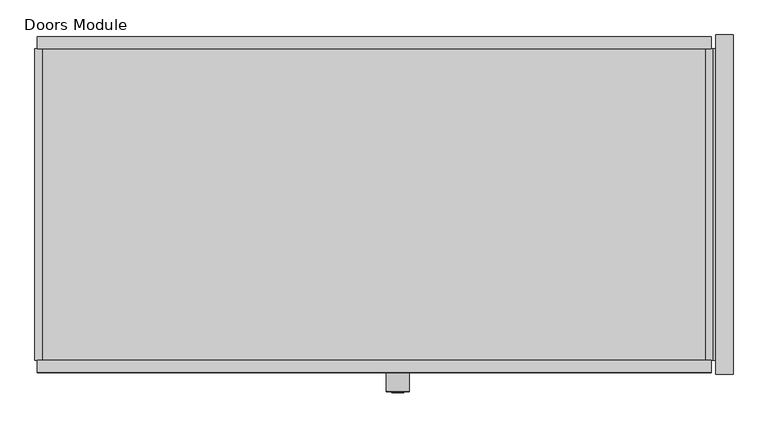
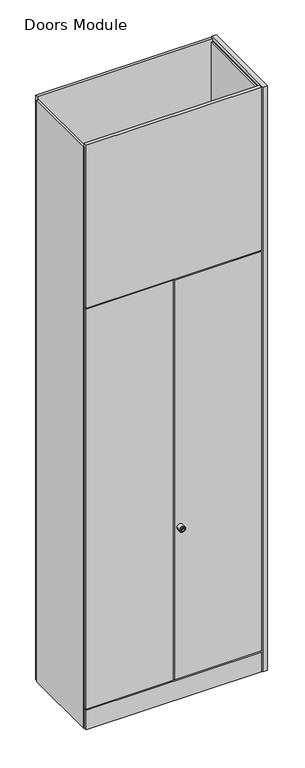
"""IFC4 building model written with IfcOpenShell, lengths in millimetres: furniture geometry, Furniture_Storage_Spacestor_SignatureStoragewall : Doors Module."""

import ifcopenshell
import ifcopenshell.guid

model = None  # the IFC model being written
_history = None  # IfcOwnerHistory: only IFC2X3 demands one
_inside = {}  # id of a spatial element -> (the spatial element, [elements in it])
_under = {}  # id of a project, library or spatial element -> (it, [spatial elements below it])
_declared = {}  # id of a project -> (the project, [libraries it declares])
_typed = {}  # id of a type object -> (the type object, [elements of that type])
_made_of = {}  # id of a material, layer set ... -> (it, [elements and type objects made of it])


def new_model(schema):
    """Start an empty IFC model of exactly this schema.

    Asked for "IFC4X3", IfcOpenShell would pick the latest addendum, in which some entities
    have other attributes; the version numbers below select the first issue.
    IFC2X3 requires an IfcOwnerHistory on every rooted entity: one is made here for all.
    """
    global model, _history
    if schema == "IFC4X3":
        model = ifcopenshell.file(schema_version=(4, 3, 0, 0))
    else:
        model = ifcopenshell.file(schema=schema)
    _inside.clear()
    _under.clear()
    _declared.clear()
    _typed.clear()
    _made_of.clear()
    _history = None
    if model.schema == "IFC2X3":
        org = make("IfcOrganization", Name="unknown")
        user = make(
            "IfcPersonAndOrganization",
            ThePerson=make("IfcPerson", FamilyName="unknown"),
            TheOrganization=org,
        )
        app = make(
            "IfcApplication",
            ApplicationDeveloper=org,
            Version="unknown",
            ApplicationFullName="unknown",
            ApplicationIdentifier="unknown",
        )
        _history = make(
            "IfcOwnerHistory",
            OwningUser=user,
            OwningApplication=app,
            ChangeAction="ADDED",
            CreationDate=0,
        )
    return model


def make(cls, **values):
    """One entity of the class cls with the attributes given. An attribute that is None is left unset."""
    return model.create_entity(
        cls, **{name: value for name, value in values.items() if value is not None}
    )


def rooted(cls, **values):
    """An entity with a GlobalId (a new one), such as an element, a storey or a relation."""
    return make(cls, GlobalId=ifcopenshell.guid.new(), OwnerHistory=_history, **values)


def si_unit(unit_type, name, prefix=None):
    """IfcSIUnit, for example si_unit("LENGTHUNIT", "METRE", prefix="MILLI")."""
    return make("IfcSIUnit", UnitType=unit_type, Prefix=prefix, Name=name)


def assignment(units):
    """IfcUnitAssignment: the units of a project."""
    return None if units is None else make("IfcUnitAssignment", Units=units)


def point(xyz):
    """IfcCartesianPoint."""
    return None if xyz is None else make("IfcCartesianPoint", Coordinates=xyz)


def direction(xyz):
    """IfcDirection."""
    return None if xyz is None else make("IfcDirection", DirectionRatios=xyz)


def frame(location, z_axis=None, x_axis=None):
    """IfcAxis2Placement3D, a coordinate frame: its origin and axes. An axis left out is left unset."""
    return make(
        "IfcAxis2Placement3D",
        Location=point(location),
        Axis=direction(z_axis),
        RefDirection=direction(x_axis),
    )


def origin():
    """The frame at (0, 0, 0) with its axes left unset."""
    return frame((0.0, 0.0, 0.0))


def origin_with_axes():
    """The frame at (0, 0, 0) with the z axis (0, 0, 1) and the x axis (1, 0, 0) written out."""
    return frame((0.0, 0.0, 0.0), z_axis=(0.0, 0.0, 1.0), x_axis=(1.0, 0.0, 0.0))


def place(relative_to, where):
    """IfcLocalPlacement: puts the frame where relative to a parent placement (None: the world)."""
    return make(
        "IfcLocalPlacement", PlacementRelTo=relative_to, RelativePlacement=where
    )


def context(
    kind, dimensions, precision=None, world=None, true_north=None, identifier=None
):
    """IfcGeometricRepresentationContext, for example the 3D "Model" context."""
    return make(
        "IfcGeometricRepresentationContext",
        ContextIdentifier=identifier,
        ContextType=kind,
        CoordinateSpaceDimension=dimensions,
        Precision=precision,
        WorldCoordinateSystem=world,
        TrueNorth=true_north,
    )


def project(units=None, contexts=None):
    """IfcProject with its units and contexts."""
    return rooted(
        "IfcProject",
        Name="project",
        RepresentationContexts=contexts,
        UnitsInContext=assignment(units),
    )


def spatial(cls, under=None, at=None, **own):
    """A site, building, storey or space (cls), placed at a placement, below another one or the project."""
    s = rooted(cls, ObjectPlacement=at, **own)
    if under is not None:
        _under.setdefault(under.id(), (under, []))[1].append(s)
    return s


def polyline(points):
    """IfcPolyline through the points."""
    return make("IfcPolyline", Points=[point(p) for p in points])


def circle_curve(where, radius):
    """IfcCircle in the frame where."""
    return make("IfcCircle", Position=where, Radius=radius)


def ellipse_curve(where, semi_axis1, semi_axis2):
    """IfcEllipse in the frame where."""
    return make(
        "IfcEllipse", Position=where, SemiAxis1=semi_axis1, SemiAxis2=semi_axis2
    )


def trimmed(basis, trim1, trim2, sense, master):
    """IfcTrimmedCurve: the piece of a basis curve between two trims."""
    return make(
        "IfcTrimmedCurve",
        BasisCurve=basis,
        Trim1=trim1,
        Trim2=trim2,
        SenseAgreement=sense,
        MasterRepresentation=master,
    )


def outline(outer, holes=None, kind="AREA"):
    """IfcArbitraryClosedProfileDef: a profile drawn as a closed curve; with holes, ...WithVoids."""
    if holes is None:
        return make("IfcArbitraryClosedProfileDef", ProfileType=kind, OuterCurve=outer)
    return make(
        "IfcArbitraryProfileDefWithVoids",
        ProfileType=kind,
        OuterCurve=outer,
        InnerCurves=holes,
    )


def extrude(swept, where, along, depth):
    """IfcExtrudedAreaSolid: the profile swept, set in the frame where, extruded along a direction by depth."""
    return make(
        "IfcExtrudedAreaSolid",
        SweptArea=swept,
        Position=where,
        ExtrudedDirection=direction(along),
        Depth=depth,
    )


def shape(context_of_items, identifier, shape_type, items):
    """IfcShapeRepresentation: the items that make up one representation, for example the "Body"."""
    return make(
        "IfcShapeRepresentation",
        ContextOfItems=context_of_items,
        RepresentationIdentifier=identifier,
        RepresentationType=shape_type,
        Items=items,
    )


def source(mapping_origin, context_of_items, identifier, shape_type, items):
    """IfcRepresentationMap: a shape defined once, which mapped items show again and again."""
    return make(
        "IfcRepresentationMap",
        MappingOrigin=mapping_origin,
        MappedRepresentation=shape(context_of_items, identifier, shape_type, items),
    )


def transform(
    local_origin,
    x_axis=None,
    y_axis=None,
    z_axis=None,
    scale=None,
    scale2=None,
    scale3=None,
    uniform=True,
):
    """IfcCartesianTransformationOperator3D, or its non-uniform kind. x_axis, y_axis, z_axis: its Axis1, 2, 3."""
    if uniform:
        return make(
            "IfcCartesianTransformationOperator3D",
            Axis1=direction(x_axis),
            Axis2=direction(y_axis),
            LocalOrigin=point(local_origin),
            Scale=scale,
            Axis3=direction(z_axis),
        )
    return make(
        "IfcCartesianTransformationOperator3DnonUniform",
        Axis1=direction(x_axis),
        Axis2=direction(y_axis),
        LocalOrigin=point(local_origin),
        Scale=scale,
        Axis3=direction(z_axis),
        Scale2=scale2,
        Scale3=scale3,
    )


def mapped(mapping_source, mapping_target):
    """IfcMappedItem: shows the shape of a source again, moved by a transform."""
    return make(
        "IfcMappedItem", MappingSource=mapping_source, MappingTarget=mapping_target
    )


def made_of(thing, what):
    """Note that an element or type object is made of a material, layer set ...; save() writes the relation."""
    if what is not None:
        _made_of.setdefault(what.id(), (what, []))[1].append(thing)
    return thing


def element(
    cls,
    number,
    at=None,
    inside=None,
    cuts=None,
    type_object=None,
    material=None,
    context=None,
    identifier="Body",
    shape_type=None,
    held_by="IfcProductDefinitionShape",
    body=None,
    shapes=None,
    **own,
):
    """One element of the class cls, such as IfcWall. Its Tag is "e" and its number.

    at: its placement. inside: the storey or other place that contains it. cuts: it is an
    opening in that element (IfcRelVoidsElement). A single representation is given by context,
    identifier, shape_type and body (its items); several are given by shapes. held_by: the class
    of the entity that holds the representations. save() writes the other relations.
    """
    e = rooted(cls, Tag="e%d" % number, ObjectPlacement=at, **own)
    if body is not None:
        shapes = [shape(context, identifier, shape_type, body)]
    if shapes is not None:
        e.Representation = make(held_by, Representations=shapes)
    if inside is not None:
        _inside.setdefault(inside.id(), (inside, []))[1].append(e)
    if cuts is not None:
        rooted(
            "IfcRelVoidsElement", RelatingBuildingElement=cuts, RelatedOpeningElement=e
        )
    if type_object is not None:
        _typed.setdefault(type_object.id(), (type_object, []))[1].append(e)
    return made_of(e, material)


def aggregate(whole, parts):
    """IfcRelAggregates: a whole, such as a stair, and the parts it consists of."""
    return rooted("IfcRelAggregates", RelatingObject=whole, RelatedObjects=parts)


def save(model, path):
    """Write the relations noted so far, then the file.

    IfcRelAggregates (storeys below a building ...), IfcRelContainedInSpatialStructure (elements
    in a storey), IfcRelDefinesByType, IfcRelAssociatesMaterial and IfcRelDeclares: one each for
    every whole, place, type object, material and project.
    """
    for whole, parts in _under.values():
        aggregate(whole, parts)
    for where, things in _inside.values():
        rooted(
            "IfcRelContainedInSpatialStructure",
            RelatedElements=things,
            RelatingStructure=where,
        )
    for kind, things in _typed.values():
        rooted("IfcRelDefinesByType", RelatedObjects=things, RelatingType=kind)
    for what, things in _made_of.values():
        rooted("IfcRelAssociatesMaterial", RelatedObjects=things, RelatingMaterial=what)
    for by, libraries in _declared.values():
        rooted("IfcRelDeclares", RelatingContext=by, RelatedDefinitions=libraries)
    model.write(path)


def plane_surface(at):
    """IfcPlane: the flat surface through the origin of the frame at, square to its z axis."""
    return make("IfcPlane", Position=at)


def cylinder_surface(at, radius):
    """IfcCylindricalSurface: all points at the distance radius from the z axis of the frame at."""
    return make("IfcCylindricalSurface", Position=at, Radius=radius)


def revolved_surface(curve, axis_point, axis_direction):
    """IfcSurfaceOfRevolution: the curve turned about the line through axis_point along axis_direction."""
    return make(
        "IfcSurfaceOfRevolution",
        SweptCurve=make("IfcArbitraryOpenProfileDef", ProfileType="CURVE", Curve=curve),
        AxisPosition=make("IfcAxis1Placement", Location=point(axis_point), Axis=direction(axis_direction)),
    )


def advanced_brep(points, edges, surfaces, faces):
    """IfcAdvancedBrep: a solid bounded by faces that lie on surfaces and meet in shared edges.

    An edge is (start, end): straight between two places in points (the first is 0);
    or (start, end, curve); or (start, end, curve, False) where it runs against its curve.
    A face is (place in surfaces, loops), or (place, loops, False) where it looks against
    its surface's normal. A loop lists edges by number (the first is 1), with a minus sign
    where the edge is run from its end to its start. The first loop is the outer one.
    """
    corners = [point(p) for p in points]
    vertices = [make("IfcVertexPoint", VertexGeometry=c) for c in corners]
    made = []
    for start, end, *more in edges:
        made.append(
            make(
                "IfcEdgeCurve",
                EdgeStart=vertices[start],
                EdgeEnd=vertices[end],
                EdgeGeometry=more[0] if more else make("IfcPolyline", Points=[corners[start], corners[end]]),
                SameSense=more[1] if len(more) > 1 else True,
            )
        )
    hull = []
    for where, loops, *sense in faces:
        bounds = []
        for j, loop in enumerate(loops):
            ring = [make("IfcOrientedEdge", EdgeElement=made[abs(k) - 1], Orientation=k > 0) for k in loop]
            bounds.append(
                make(
                    "IfcFaceOuterBound" if j == 0 else "IfcFaceBound",
                    Bound=make("IfcEdgeLoop", EdgeList=ring),
                    Orientation=True,
                )
            )
        hull.append(make("IfcAdvancedFace", Bounds=bounds, FaceSurface=surfaces[where], SameSense=sense[0] if sense else True))
    return make("IfcAdvancedBrep", Outer=make("IfcClosedShell", CfsFaces=hull))


def doors_module_09854d80(model_context):
    return source(origin(), model_context, "Body", "SolidModel", [
        extrude(outline(polyline([(996.5, 459.0), (3.5, 459.0), (3.5, 477.0), (996.5, 477.0), (996.5, 459.0)])), origin_with_axes(), (0.0, 0.0, 1.0), 3500.0),
        extrude(outline(polyline([(996.5, -18.0), (3.5, -18.0), (3.5, 0.0), (996.5, 0.0), (996.5, -18.0)])), origin_with_axes(), (0.0, 0.0, 1.0), 118.0),
        extrude(outline(polyline([(996.5, -18.0), (3.5, -18.0), (3.5, 0.0), (996.5, 0.0), (996.5, -18.0)])), frame((0.0, 0.0, 2525.0), z_axis=(0.0, 0.0, 1.0), x_axis=(1.0, 0.0, 0.0)), (0.0, 0.0, 1.0), 975.0),
        extrude(outline(polyline([(1003.5, 479.5), (1029.0, 479.5), (1029.0, -20.5), (1003.5, -20.5), (1003.5, 479.5)])), origin_with_axes(), (0.0, 0.0, 1.0), 3500.0),
        extrude(outline(polyline([(1011.0, 0.0), (1000.0, 0.0), (1000.0, 459.0), (1011.0, 459.0), (1011.0, 0.0)])), origin_with_axes(), (0.0, 0.0, 1.0), 3482.0),
        extrude(outline(polyline([(1000.0, 0.0), (989.0, 0.0), (989.0, 459.0), (1000.0, 459.0), (1000.0, 0.0)])), origin_with_axes(), (0.0, 0.0, 1.0), 3482.0),
        extrude(outline(polyline([(11.0, 0.0), (0.0, 0.0), (0.0, 459.0), (11.0, 459.0), (11.0, 0.0)])), origin_with_axes(), (0.0, 0.0, 1.0), 3482.0),
        extrude(outline(polyline([(989.0, 0.0), (11.0, 0.0), (11.0, 459.0), (989.0, 459.0), (989.0, 0.0)])), frame((0.0, 0.0, 2023.0), z_axis=(0.0, 0.0, 1.0), x_axis=(1.0, 0.0, 0.0)), (0.0, 0.0, 1.0), 22.0),
        extrude(outline(polyline([(989.0, 0.0), (11.0, 0.0), (11.0, 459.0), (989.0, 459.0), (989.0, 0.0)])), frame((0.0, 0.0, 1639.0), z_axis=(0.0, 0.0, 1.0), x_axis=(1.0, 0.0, 0.0)), (0.0, 0.0, 1.0), 22.0),
        extrude(outline(polyline([(989.0, 0.0), (11.0, 0.0), (11.0, 459.0), (989.0, 459.0), (989.0, 0.0)])), frame((0.0, 0.0, 1255.0), z_axis=(0.0, 0.0, 1.0), x_axis=(1.0, 0.0, 0.0)), (0.0, 0.0, 1.0), 22.0),
        extrude(outline(polyline([(989.0, 0.0), (11.0, 0.0), (11.0, 459.0), (989.0, 459.0), (989.0, 0.0)])), frame((0.0, 0.0, 871.0), z_axis=(0.0, 0.0, 1.0), x_axis=(1.0, 0.0, 0.0)), (0.0, 0.0, 1.0), 22.0),
        extrude(outline(polyline([(989.0, 0.0), (11.0, 0.0), (11.0, 459.0), (989.0, 459.0), (989.0, 0.0)])), frame((0.0, 0.0, 487.0), z_axis=(0.0, 0.0, 1.0), x_axis=(1.0, 0.0, 0.0)), (0.0, 0.0, 1.0), 22.0),
        advanced_brep(
        [(552.0, -45.3116344, 1032.0), (518.0, -45.3116344, 1032.0), (518.0, -18.0, 1032.0), (552.0, -18.0, 1032.0), (535.0, -18.0, 1032.0), (543.9747319, -46.3150077, 1032.0), (526.0252681, -46.3150077, 1032.0), (519.0033734, -46.3150077, 1032.0), (550.9966266, -46.3150077, 1032.0), (543.9747319, -47.4703043, 1032.0), (526.0252681, -47.4703043, 1032.0), (539.8245152, -47.4703043, 1032.0), (539.8245152, -47.4703043, 1030.6366562), (530.1754848, -47.4703043, 1030.6366562), (530.1754848, -47.4703043, 1032.0), (530.1754848, -47.4703043, 1033.3633438), (539.8245152, -47.4703043, 1033.3633438), (530.1754848, -27.8604291, 1030.6366562), (539.8245152, -27.8604291, 1030.6366562), (539.8245152, -27.8604291, 1033.3633438), (530.1754848, -27.8604291, 1033.3633438)],
        [
            (0, 1, circle_curve(frame((535.0, -45.3116344, 1032.0), z_axis=(0.0, 1.0, 0.0), x_axis=(-1.0, 0.0, 0.0)), 17.0)),
            (1, 2),
            (2, 3, circle_curve(frame((535.0, -18.0, 1032.0), z_axis=(0.0, -1.0, 0.0), x_axis=(-1.0, 0.0, 0.0)), 17.0)),
            (3, 0),
            (1, 0, circle_curve(frame((535.0, -45.3116344, 1032.0), z_axis=(0.0, 1.0, 0.0), x_axis=(-1.0, 0.0, 0.0)), 17.0)),
            (3, 2, circle_curve(frame((535.0, -18.0, 1032.0), z_axis=(0.0, -1.0, 0.0), x_axis=(-1.0, 0.0, 0.0)), 17.0)),
            (2, 4),
            (4, 3),
            (5, 6, circle_curve(frame((535.0, -46.3150077, 1032.0), z_axis=(0.0, 1.0, 0.0), x_axis=(-1.0, 0.0, 0.0)), 8.9747319)),
            (6, 7),
            (7, 8, circle_curve(frame((535.0, -46.3150077, 1032.0), z_axis=(0.0, -1.0, 0.0), x_axis=(-1.0, 0.0, 0.0)), 15.9966266)),
            (8, 5),
            (6, 5, circle_curve(frame((535.0, -46.3150077, 1032.0), z_axis=(0.0, 1.0, 0.0), x_axis=(-1.0, 0.0, 0.0)), 8.9747319)),
            (8, 7, circle_curve(frame((535.0, -46.3150077, 1032.0), z_axis=(0.0, -1.0, 0.0), x_axis=(-1.0, 0.0, 0.0)), 15.9966266)),
            (0, 8, circle_curve(frame((550.9966266, -45.3116344, 1032.0), z_axis=(0.0, 0.0, -1.0), x_axis=(1.0, 0.0, 0.0)), 1.0033734)),
            (7, 1, circle_curve(frame((519.0033734, -45.3116344, 1032.0), z_axis=(0.0, 0.0, -1.0), x_axis=(-1.0, 0.0, 0.0)), 1.0033734)),
            (5, 9),
            (9, 10, circle_curve(frame((535.0, -47.4703043, 1032.0), z_axis=(0.0, 1.0, 0.0), x_axis=(-1.0, 0.0, 0.0)), 8.9747319)),
            (10, 6),
            (10, 9, circle_curve(frame((535.0, -47.4703043, 1032.0), z_axis=(0.0, 1.0, 0.0), x_axis=(-1.0, 0.0, 0.0)), 8.9747319)),
            (9, 11),
            (11, 12),
            (12, 13),
            (13, 14),
            (14, 10),
            (14, 15),
            (15, 16),
            (16, 11),
            (17, 18),
            (18, 19),
            (19, 20),
            (20, 17),
            (17, 13),
            (12, 18),
            (16, 19),
            (15, 20),
        ],
        [
            cylinder_surface(frame((535.0, -2627.0581012, 1032.0), z_axis=(0.0, -1.0, 0.0), x_axis=(-1.0, 0.0, 0.0)), 17.0),
            plane_surface(frame((535.0, -18.0, 1032.0), z_axis=(0.0, 1.0, 0.0), x_axis=(-1.0, 0.0, 0.0))),
            plane_surface(frame((535.0, -46.3150077, 1032.0), z_axis=(0.0, -1.0, 0.0), x_axis=(-1.0, 0.0, 0.0))),
            revolved_surface(trimmed(ellipse_curve(frame((519.0033734, -45.3116344, 1032.0), z_axis=(0.0, 0.0, 1.0), x_axis=(-1.0, 0.0, 0.0)), 1.0033734, 1.0033734), [point((518.0, -45.3116344, 1032.0))], [point((519.0033734, -46.3150077, 1032.0))], True, "CARTESIAN"), (535.0, -2627.0581012, 1032.0), (0.0, -1.0, 0.0)),
            cylinder_surface(frame((535.0, -2627.0581012, 1032.0), z_axis=(0.0, -1.0, 0.0), x_axis=(-1.0, 0.0, 0.0)), 8.9747319),
            plane_surface(frame((535.0, -47.4703043, 1032.0), z_axis=(0.0, -1.0, 0.0), x_axis=(-1.0, 0.0, 0.0))),
            plane_surface(frame((539.4565249, -27.8604291, 1030.6366562), z_axis=(0.0, -1.0, 0.0), x_axis=(-1.0, 0.0, 0.0))),
            plane_surface(frame((530.1754848, -49.2046383, 1030.6366562), z_axis=(0.0, 0.0, 1.0), x_axis=(0.0, 1.0, 0.0))),
            plane_surface(frame((539.8245152, -49.2046383, 1030.6366562), z_axis=(-1.0, 0.0, 0.0), x_axis=(0.0, 1.0, 0.0))),
            plane_surface(frame((539.8245152, -49.2046383, 1033.3633438), z_axis=(0.0, 0.0, -1.0), x_axis=(0.0, 1.0, 0.0))),
            plane_surface(frame((530.1754848, -49.2046383, 1033.3633438), z_axis=(1.0, 0.0, 0.0), x_axis=(0.0, 1.0, 0.0))),
        ],
        [
            (0, [[1, 2, 3, 4]]),
            (0, [[-2, 5, -4, 6]]),
            (1, [[-3, 7, 8]]),
            (1, [[-6, -8, -7]]),
            (2, [[9, 10, 11, 12]]),
            (2, [[-10, 13, -12, 14]]),
            (3, [[-1, 15, -11, 16]]),
            (3, [[-5, -16, -14, -15]]),
            (4, [[-9, 17, 18, 19]]),
            (4, [[-13, -19, 20, -17]]),
            (5, [[-18, 21, 22, 23, 24, 25]]),
            (5, [[-20, -25, 26, 27, 28, -21]]),
            (6, [[29, 30, 31, 32]]),
            (7, [[-29, 33, -23, 34]]),
            (8, [[-30, -34, -22, -28, 35]]),
            (9, [[-31, -35, -27, 36]]),
            (10, [[-32, -36, -26, -24, -33]]),
        ],
    ),
        extrude(outline(polyline([(3.5, -18.0), (3.5, 0.0), (496.5, 0.0), (496.5, -18.0), (3.5, -18.0)])), frame((0.0, 0.0, 125.0), z_axis=(0.0, 0.0, 1.0), x_axis=(1.0, 0.0, 0.0)), (0.0, 0.0, 1.0), 2393.0),
        extrude(outline(polyline([(996.5, -18.0), (503.5, -18.0), (503.5, 0.0), (996.5, 0.0), (996.5, -18.0)])), frame((0.0, 0.0, 125.0), z_axis=(0.0, 0.0, 1.0), x_axis=(1.0, 0.0, 0.0)), (0.0, 0.0, 1.0), 2393.0),
        extrude(outline(polyline([(989.0, 0.0), (11.0, 0.0), (11.0, 459.0), (989.0, 459.0), (989.0, 0.0)])), frame((0.0, 0.0, 110.5), z_axis=(0.0, 0.0, 1.0), x_axis=(1.0, 0.0, 0.0)), (0.0, 0.0, 1.0), 22.0),
        extrude(outline(polyline([(989.0, 0.0), (11.0, 0.0), (11.0, 459.0), (989.0, 459.0), (989.0, 0.0)])), frame((0.0, 0.0, 2510.0), z_axis=(0.0, 0.0, 1.0), x_axis=(1.0, 0.0, 0.0)), (0.0, 0.0, 1.0), 22.0),
    ])


if __name__ == "__main__":
    model = new_model("IFC4")
    model_context = context("Model", 3, world=origin())
    ifc_project = project(units=[si_unit("LENGTHUNIT", "METRE", prefix="MILLI")], contexts=[model_context])
    site = spatial("IfcSite", under=ifc_project)
    building = spatial("IfcBuilding", under=site)
    placement = place(None, origin())
    doors_module_shape = doors_module_09854d80(model_context)
    element("IfcFurniture", 1, ObjectType="Furniture_Storage_Spacestor_SignatureStoragewall : Doors Module", at=placement, inside=building, context=model_context, shape_type="MappedRepresentation", body=[
        mapped(doors_module_shape, transform((0.0, 0.0, 0.0), x_axis=(1.0, 0.0, 0.0), y_axis=(0.0, 1.0, 0.0), z_axis=(0.0, 0.0, 1.0))),
    ])
    save(model, "model.ifc")
